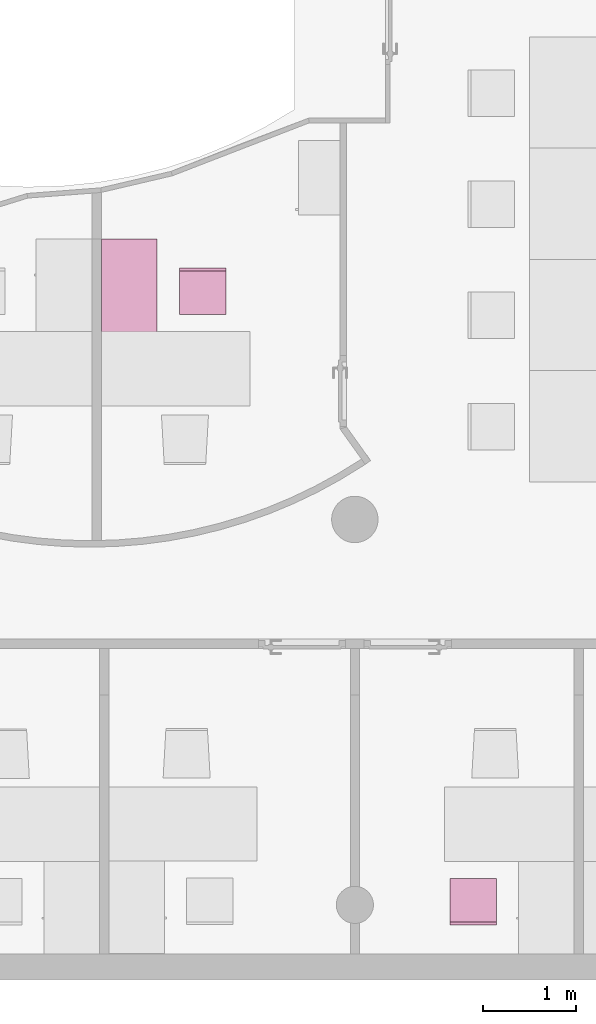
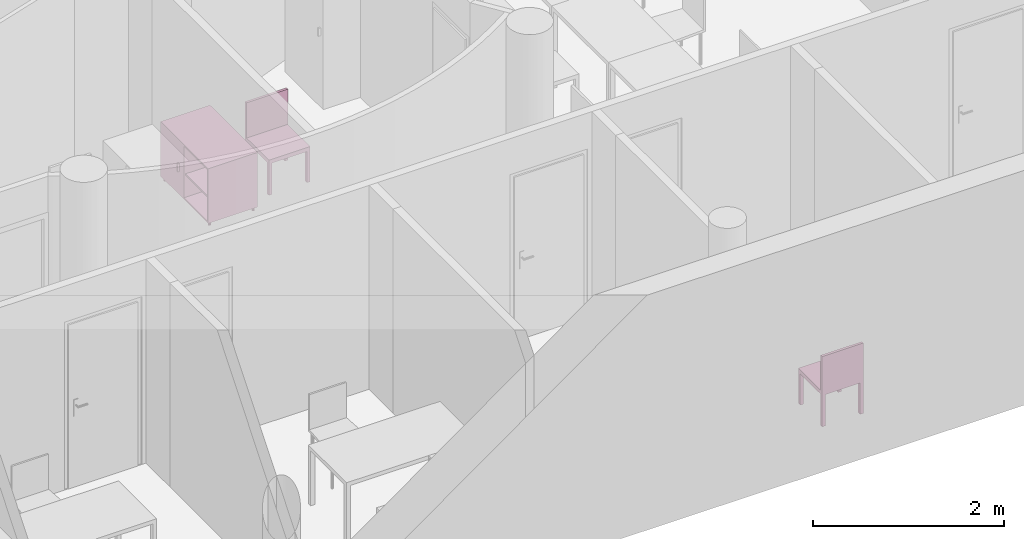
"""IFC4 building model written with IfcOpenShell, lengths in metres."""

from ifc_helpers import new_model, entity, si_unit, converted_unit, derived_unit, frame, origin, place, context, subcontext, project, spatial, faceted_brep, element, save


model = new_model("IFC4")

# Units and contexts
model_context = context("Model", 3, precision=1e-05, world=origin())
body_context = subcontext(model_context, "Body", "Model", "MODEL_VIEW")
ifc_project = project(units=[si_unit("LENGTHUNIT", "METRE"), si_unit("AREAUNIT", "SQUARE_METRE"), si_unit("VOLUMEUNIT", "CUBIC_METRE"), si_unit("MASSUNIT", "GRAM", prefix="KILO"), converted_unit("PLANEANGLEUNIT", "DEGREE", entity("IfcPlaneAngleMeasure", 0.0174532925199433), si_unit("PLANEANGLEUNIT", "RADIAN"), dimensions=[0, 0, 0, 0, 0, 0, 0]), derived_unit("THERMALTRANSMITTANCEUNIT", [(si_unit("POWERUNIT", "WATT"), 1), (si_unit("THERMODYNAMICTEMPERATUREUNIT", "KELVIN"), -1), (si_unit("LENGTHUNIT", "METRE"), -2)]), derived_unit("VOLUMETRICFLOWRATEUNIT", [(si_unit("LENGTHUNIT", "METRE"), 3), (converted_unit("TIMEUNIT", "hour", entity("IfcTimeMeasure", 3600.0), si_unit("TIMEUNIT", "SECOND"), dimensions=[0, 0, 1, 0, 0, 0, 0]), -1), (si_unit("LENGTHUNIT", "METRE"), -1)])], contexts=[model_context])

# Building, storeys
building_placement = place(None, origin())
building = spatial("IfcBuilding", under=ifc_project, at=building_placement, Name="HABITATGE PLURIFAMILIAR", CompositionType="ELEMENT")
storey_1_placement = place(building_placement, frame((0.0, 0.0, 6.25)))
storey_1 = spatial("IfcBuildingStorey", under=building, at=storey_1_placement, Name="PLANTA PRIMERA", CompositionType="ELEMENT", Elevation=6.25)
storey_2_placement = place(storey_1_placement, frame((0.0, 0.0, 3.35)))
storey_2 = spatial("IfcBuildingStorey", under=storey_1, at=storey_2_placement, Name="NOU", CompositionType="PARTIAL")

# Furniture
furniture_1_placement = place(storey_2_placement, frame((417.160806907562, 13.4340276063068, -3.34942958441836)))
element("IfcFurniture", 1, at=furniture_1_placement, inside=storey_2, Name="Cadira d'Oficina_P1", context=body_context, shape_type="Brep", body=[
    faceted_brep([(0.0, 0.5, 0.4), (0.0, 0.0, 0.4), (0.5, 0.0, 0.4), (0.5, 0.5, 0.4), (0.0, 0.0, 0.45), (0.0, 0.5, 0.45), (0.5, 0.5, 0.45), (0.5, 0.0, 0.45)], [[[0, 1, 2, 3]], [[4, 5, 6, 7]], [[1, 0, 5, 4]], [[2, 1, 4, 7]], [[3, 2, 7, 6]], [[0, 3, 6, 5]]], orient=[[False], [False], [False], [False], [False], [False]]),
    faceted_brep([(0.5, 0.04, 0.0), (0.46, 0.04, 0.0), (0.46, 0.0, 0.0), (0.5, 0.0, 0.0), (0.46, 0.04, 0.4), (0.5, 0.04, 0.4), (0.5, 0.0, 0.4), (0.46, 0.0, 0.4)], [[[0, 1, 2, 3]], [[4, 5, 6, 7]], [[1, 0, 5, 4]], [[2, 1, 4, 7]], [[3, 2, 7, 6]], [[0, 3, 6, 5]]], orient=[[False], [False], [False], [False], [False], [False]]),
    faceted_brep([(0.5, 0.5, 0.0), (0.46, 0.5, 0.0), (0.46, 0.46, 0.0), (0.5, 0.46, 0.0), (0.46, 0.5, 0.4), (0.5, 0.5, 0.4), (0.5, 0.46, 0.4), (0.46, 0.46, 0.4)], [[[0, 1, 2, 3]], [[4, 5, 6, 7]], [[1, 0, 5, 4]], [[2, 1, 4, 7]], [[3, 2, 7, 6]], [[0, 3, 6, 5]]], orient=[[False], [False], [False], [False], [False], [False]]),
    faceted_brep([(0.04, 0.04, 0.0), (0.0, 0.04, 0.0), (0.0, 0.0, 0.0), (0.04, 0.0, 0.0), (0.0, 0.04, 0.4), (0.04, 0.04, 0.4), (0.04, 0.0, 0.4), (0.0, 0.0, 0.4)], [[[0, 1, 2, 3]], [[4, 5, 6, 7]], [[1, 0, 5, 4]], [[2, 1, 4, 7]], [[3, 2, 7, 6]], [[0, 3, 6, 5]]], orient=[[False], [False], [False], [False], [False], [False]]),
    faceted_brep([(0.04, 0.5, 0.0), (0.0, 0.5, 0.0), (0.0, 0.46, 0.0), (0.04, 0.46, 0.0), (0.0, 0.5, 0.4), (0.04, 0.5, 0.4), (0.04, 0.46, 0.4), (0.0, 0.46, 0.4)], [[[0, 1, 2, 3]], [[4, 5, 6, 7]], [[1, 0, 5, 4]], [[2, 1, 4, 7]], [[3, 2, 7, 6]], [[0, 3, 6, 5]]], orient=[[False], [False], [False], [False], [False], [False]]),
    faceted_brep([(0.5, 0.03, 0.45), (0.0, 0.03, 0.45), (0.0, 0.0, 0.45), (0.5, 0.0, 0.45), (0.0, 0.03, 0.9), (0.5, 0.03, 0.9), (0.5, 0.0, 0.9), (0.0, 0.0, 0.9)], [[[0, 1, 2, 3]], [[4, 5, 6, 7]], [[1, 0, 5, 4]], [[2, 1, 4, 7]], [[3, 2, 7, 6]], [[0, 3, 6, 5]]], orient=[[False], [False], [False], [False], [False], [False]]),
])
furniture_2_placement = place(storey_2_placement, frame((413.386608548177, 19.8169688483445, -3.35)))
element("IfcFurniture", 2, at=furniture_2_placement, inside=storey_2, Name="Taula 100X60_P1", context=body_context, shape_type="Brep", body=[
    faceted_brep([(0.620000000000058, 0.0, 0.05), (0.02, 0.0, 0.05), (0.02, 0.0, 0.07), (0.620000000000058, 0.0, 0.07), (0.02, 1.00000000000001, 0.05), (0.02, 1.00000000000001, 0.07), (0.620000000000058, 1.00000000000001, 0.05), (0.620000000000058, 1.00000000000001, 0.07)], [[[0, 1, 2, 3]], [[1, 4, 5, 2]], [[4, 6, 7, 5]], [[6, 0, 3, 7]], [[0, 6, 4, 1]], [[3, 2, 5, 7]]], orient=[[False], [False], [False], [False], [False], [False]]),
    faceted_brep([(0.04, 0.0, 0.35), (0.62, 0.0, 0.35), (0.62, 1.0, 0.35), (0.04, 1.0, 0.35), (0.62, 0.0, 0.37), (0.04, 0.0, 0.37), (0.04, 1.0, 0.37), (0.62, 1.0, 0.37)], [[[0, 1, 2, 3]], [[4, 5, 6, 7]], [[1, 0, 5, 4]], [[2, 1, 4, 7]], [[3, 2, 7, 6]], [[0, 3, 6, 5]]], orient=[[False], [False], [False], [False], [False], [False]]),
    faceted_brep([(0.04, 0.510000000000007, 0.75), (0.04, 0.510000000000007, 0.05), (0.02, 0.510000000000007, 0.05), (0.02, 0.510000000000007, 0.75), (0.04, 1.00000000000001, 0.05), (0.02, 1.00000000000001, 0.05), (0.04, 1.00000000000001, 0.75), (0.02, 1.00000000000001, 0.75)], [[[0, 1, 2, 3]], [[1, 4, 5, 2]], [[4, 6, 7, 5]], [[6, 0, 3, 7]], [[0, 6, 4, 1]], [[3, 2, 5, 7]]], orient=[[False], [False], [False], [False], [False], [False]]),
    faceted_brep([(0.62, 0.0200000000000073, 0.75), (0.620000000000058, 0.0200000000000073, 0.0499999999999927), (0.620000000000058, 0.0, 0.0499999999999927), (0.62, 0.0, 0.75), (0.02, 0.0200000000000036, 0.05), (0.02, 0.0, 0.05), (0.02, 0.0200000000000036, 0.75), (0.02, 0.0, 0.75)], [[[0, 1, 2, 3]], [[1, 4, 5, 2]], [[4, 6, 7, 5]], [[6, 0, 3, 7]], [[0, 6, 4, 1]], [[3, 2, 5, 7]]], orient=[[False], [False], [False], [False], [False], [False]]),
    faceted_brep([(0.62, 0.530000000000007, 0.75), (0.620000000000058, 0.530000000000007, 0.0499999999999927), (0.620000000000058, 0.510000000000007, 0.0499999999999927), (0.62, 0.510000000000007, 0.75), (0.02, 0.530000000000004, 0.05), (0.02, 0.510000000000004, 0.05), (0.02, 0.530000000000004, 0.75), (0.02, 0.510000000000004, 0.75)], [[[0, 1, 2, 3]], [[1, 4, 5, 2]], [[4, 6, 7, 5]], [[6, 0, 3, 7]], [[0, 6, 4, 1]], [[3, 2, 5, 7]]], orient=[[False], [False], [False], [False], [False], [False]]),
    faceted_brep([(0.620000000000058, 0.530000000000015, 0.75000000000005), (0.620000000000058, 0.530000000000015, 0.0499999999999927), (0.620000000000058, 0.510000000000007, 0.0499999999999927), (0.620000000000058, 0.510000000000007, 0.75000000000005), (0.0400000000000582, 0.530000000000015, 0.0499999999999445), (0.0400000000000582, 0.510000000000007, 0.0499999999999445), (0.04, 0.530000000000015, 0.750000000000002), (0.04, 0.510000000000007, 0.750000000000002)], [[[0, 1, 2, 3]], [[1, 4, 5, 2]], [[4, 6, 7, 5]], [[6, 0, 3, 7]], [[0, 6, 4, 1]], [[3, 2, 5, 7]]], orient=[[False], [False], [False], [False], [False], [False]]),
    faceted_brep([(0.62, 1.00000000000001, 0.75), (0.620000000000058, 1.00000000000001, 0.0499999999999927), (0.620000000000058, 0.980000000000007, 0.0499999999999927), (0.62, 0.980000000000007, 0.75), (0.02, 1.0, 0.05), (0.02, 0.980000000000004, 0.05), (0.02, 1.0, 0.75), (0.02, 0.980000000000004, 0.75)], [[[0, 1, 2, 3]], [[1, 4, 5, 2]], [[4, 6, 7, 5]], [[6, 0, 3, 7]], [[0, 6, 4, 1]], [[3, 2, 5, 7]]], orient=[[False], [False], [False], [False], [False], [False]]),
    faceted_brep([(0.620000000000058, 0.0, 0.73), (0.02, 0.0, 0.73), (0.02, 0.0, 0.75), (0.620000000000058, 0.0, 0.75), (0.02, 1.00000000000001, 0.73), (0.02, 1.00000000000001, 0.75), (0.620000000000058, 1.00000000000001, 0.73), (0.620000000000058, 1.00000000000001, 0.75)], [[[0, 1, 2, 3]], [[1, 4, 5, 2]], [[4, 6, 7, 5]], [[6, 0, 3, 7]], [[0, 6, 4, 1]], [[3, 2, 5, 7]]], orient=[[False], [False], [False], [False], [False], [False]]),
    faceted_brep([(0.62, 0.0200000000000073, 0.75), (0.62, 0.0200000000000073, 0.05), (0.6, 0.0200000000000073, 0.05), (0.6, 0.0200000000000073, 0.75), (0.62, 1.00000000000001, 0.05), (0.6, 1.00000000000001, 0.05), (0.62, 1.00000000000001, 0.75), (0.6, 1.00000000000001, 0.75)], [[[0, 1, 2, 3]], [[1, 4, 5, 2]], [[4, 6, 7, 5]], [[6, 0, 3, 7]], [[0, 6, 4, 1]], [[3, 2, 5, 7]]], orient=[[False], [False], [False], [False], [False], [False]]),
    faceted_brep([(0.02, 0.625579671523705, 0.35), (0.0, 0.625579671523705, 0.35), (0.0, 0.605579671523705, 0.35), (0.02, 0.605579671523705, 0.35), (0.02, 0.605579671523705, 0.45), (0.0, 0.605579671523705, 0.45), (0.0, 0.625579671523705, 0.45), (0.02, 0.625579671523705, 0.45)], [[[0, 1, 2, 3]], [[4, 5, 6, 7]], [[3, 4, 7, 0]], [[2, 5, 4, 3]], [[1, 6, 5, 2]], [[0, 7, 6, 1]]], orient=[[False], [False], [False], [False], [False], [False]]),
    faceted_brep([(0.583821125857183, 0.0499366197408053, 0.0), (0.581227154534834, 0.0497096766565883, 0.0), (0.578711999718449, 0.0490357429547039, 0.0), (0.5763520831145, 0.047935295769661, 0.0), (0.574219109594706, 0.0464417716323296, 0.0), (0.57237788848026, 0.0446005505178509, 0.0), (0.570884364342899, 0.0424675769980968, 0.0), (0.569783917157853, 0.0401076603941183, 0.0), (0.569109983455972, 0.0375925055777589, 0.0), (0.568883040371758, 0.0349985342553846, 0.0), (0.569109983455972, 0.0324045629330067, 0.0), (0.569783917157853, 0.0298894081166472, 0.0), (0.570884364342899, 0.0275294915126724, 0.0), (0.57237788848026, 0.0253965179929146, 0.0), (0.574219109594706, 0.0235552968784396, 0.0), (0.5763520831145, 0.0220617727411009, 0.0), (0.578711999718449, 0.0209613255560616, 0.0), (0.581227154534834, 0.0202873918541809, 0.0), (0.583821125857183, 0.0200604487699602, 0.0), (0.586415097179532, 0.0202873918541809, 0.0), (0.588930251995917, 0.0209613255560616, 0.0), (0.591290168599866, 0.0220617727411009, 0.0), (0.59342314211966, 0.0235552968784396, 0.0), (0.595264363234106, 0.0253965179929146, 0.0), (0.596757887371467, 0.0275294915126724, 0.0), (0.597858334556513, 0.0298894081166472, 0.0), (0.598532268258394, 0.0324045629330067, 0.0), (0.598759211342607, 0.0349985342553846, 0.0), (0.598532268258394, 0.0375925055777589, 0.0), (0.597858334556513, 0.0401076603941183, 0.0), (0.596757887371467, 0.0424675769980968, 0.0), (0.595264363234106, 0.0446005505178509, 0.0), (0.59342314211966, 0.0464417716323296, 0.0), (0.591290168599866, 0.047935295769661, 0.0), (0.588930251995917, 0.0490357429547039, 0.0), (0.586415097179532, 0.0497096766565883, 0.0), (0.583821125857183, 0.0499366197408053, 0.05), (0.586415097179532, 0.0497096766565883, 0.05), (0.588930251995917, 0.0490357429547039, 0.05), (0.591290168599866, 0.047935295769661, 0.05), (0.59342314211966, 0.0464417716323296, 0.05), (0.595264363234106, 0.0446005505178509, 0.05), (0.596757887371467, 0.0424675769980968, 0.05), (0.597858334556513, 0.0401076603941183, 0.05), (0.598532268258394, 0.0375925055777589, 0.05), (0.598759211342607, 0.0349985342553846, 0.05), (0.598532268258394, 0.0324045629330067, 0.05), (0.597858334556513, 0.0298894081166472, 0.05), (0.596757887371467, 0.0275294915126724, 0.05), (0.595264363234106, 0.0253965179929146, 0.05), (0.59342314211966, 0.0235552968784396, 0.05), (0.591290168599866, 0.0220617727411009, 0.05), (0.588930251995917, 0.0209613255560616, 0.05), (0.586415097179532, 0.0202873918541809, 0.05), (0.583821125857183, 0.0200604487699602, 0.05), (0.581227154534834, 0.0202873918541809, 0.05), (0.578711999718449, 0.0209613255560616, 0.05), (0.5763520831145, 0.0220617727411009, 0.05), (0.574219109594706, 0.0235552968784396, 0.05), (0.57237788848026, 0.0253965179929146, 0.05), (0.570884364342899, 0.0275294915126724, 0.05), (0.569783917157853, 0.0298894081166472, 0.05), (0.569109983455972, 0.0324045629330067, 0.05), (0.568883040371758, 0.0349985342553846, 0.05), (0.569109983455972, 0.0375925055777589, 0.05), (0.569783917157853, 0.0401076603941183, 0.05), (0.570884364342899, 0.0424675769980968, 0.05), (0.57237788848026, 0.0446005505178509, 0.05), (0.574219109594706, 0.0464417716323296, 0.05), (0.5763520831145, 0.047935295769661, 0.05), (0.578711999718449, 0.0490357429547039, 0.05), (0.581227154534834, 0.0497096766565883, 0.05)], [[[0, 1, 2, 3, 4, 5, 6, 7, 8, 9, 10, 11, 12, 13, 14, 15, 16, 17, 18, 19, 20, 21, 22, 23, 24, 25, 26, 27, 28, 29, 30, 31, 32, 33, 34, 35]], [[36, 37, 38, 39, 40, 41, 42, 43, 44, 45, 46, 47, 48, 49, 50, 51, 52, 53, 54, 55, 56, 57, 58, 59, 60, 61, 62, 63, 64, 65, 66, 67, 68, 69, 70, 71]], [[1, 0, 36, 71]], [[2, 1, 71, 70]], [[3, 2, 70, 69]], [[4, 3, 69, 68]], [[5, 4, 68, 67]], [[6, 5, 67, 66]], [[7, 6, 66, 65]], [[8, 7, 65, 64]], [[9, 8, 64, 63]], [[10, 9, 63, 62]], [[11, 10, 62, 61]], [[12, 11, 61, 60]], [[13, 12, 60, 59]], [[14, 13, 59, 58]], [[15, 14, 58, 57]], [[16, 15, 57, 56]], [[17, 16, 56, 55]], [[18, 17, 55, 54]], [[19, 18, 54, 53]], [[20, 19, 53, 52]], [[21, 20, 52, 51]], [[22, 21, 51, 50]], [[23, 22, 50, 49]], [[24, 23, 49, 48]], [[25, 24, 48, 47]], [[26, 25, 47, 46]], [[27, 26, 46, 45]], [[28, 27, 45, 44]], [[29, 28, 44, 43]], [[30, 29, 43, 42]], [[31, 30, 42, 41]], [[32, 31, 41, 40]], [[33, 32, 40, 39]], [[34, 33, 39, 38]], [[35, 34, 38, 37]], [[0, 35, 37, 36]]], orient=[[False], [False], [False], [False], [False], [False], [False], [False], [False], [False], [False], [False], [False], [False], [False], [False], [False], [False], [False], [False], [False], [False], [False], [False], [False], [False], [False], [False], [False], [False], [False], [False], [False], [False], [False], [False], [False], [False]]),
    faceted_brep([(0.0538211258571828, 0.0499366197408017, 0.0), (0.051227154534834, 0.0497096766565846, 0.0), (0.0487119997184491, 0.0490357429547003, 0.0), (0.0463520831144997, 0.047935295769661, 0.0), (0.0442191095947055, 0.046441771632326, 0.0), (0.0423778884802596, 0.0446005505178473, 0.0), (0.0408843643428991, 0.0424675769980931, 0.0), (0.0397839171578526, 0.0401076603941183, 0.0), (0.0391099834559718, 0.0375925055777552, 0.0), (0.0388830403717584, 0.0349985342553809, 0.0), (0.0391099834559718, 0.0324045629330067, 0.0), (0.0397839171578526, 0.0298894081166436, 0.0), (0.0408843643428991, 0.0275294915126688, 0.0), (0.0423778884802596, 0.0253965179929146, 0.0), (0.0442191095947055, 0.0235552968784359, 0.0), (0.0463520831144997, 0.0220617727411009, 0.0), (0.0487119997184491, 0.0209613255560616, 0.0), (0.051227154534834, 0.0202873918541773, 0.0), (0.0538211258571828, 0.0200604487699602, 0.0), (0.0564150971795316, 0.0202873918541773, 0.0), (0.0589302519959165, 0.0209613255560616, 0.0), (0.0612901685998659, 0.0220617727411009, 0.0), (0.06342314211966, 0.0235552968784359, 0.0), (0.065264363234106, 0.0253965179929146, 0.0), (0.0667578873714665, 0.0275294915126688, 0.0), (0.067858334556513, 0.0298894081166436, 0.0), (0.0685322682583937, 0.0324045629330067, 0.0), (0.0687592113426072, 0.0349985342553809, 0.0), (0.0685322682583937, 0.0375925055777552, 0.0), (0.067858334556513, 0.0401076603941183, 0.0), (0.0667578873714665, 0.0424675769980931, 0.0), (0.065264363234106, 0.0446005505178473, 0.0), (0.06342314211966, 0.046441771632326, 0.0), (0.0612901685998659, 0.047935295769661, 0.0), (0.0589302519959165, 0.0490357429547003, 0.0), (0.0564150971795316, 0.0497096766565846, 0.0), (0.0538211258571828, 0.0499366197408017, 0.05), (0.0564150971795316, 0.0497096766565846, 0.05), (0.0589302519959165, 0.0490357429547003, 0.05), (0.0612901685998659, 0.047935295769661, 0.05), (0.06342314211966, 0.046441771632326, 0.05), (0.065264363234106, 0.0446005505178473, 0.05), (0.0667578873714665, 0.0424675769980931, 0.05), (0.067858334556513, 0.0401076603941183, 0.05), (0.0685322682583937, 0.0375925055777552, 0.05), (0.0687592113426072, 0.0349985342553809, 0.05), (0.0685322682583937, 0.0324045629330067, 0.05), (0.067858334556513, 0.0298894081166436, 0.05), (0.0667578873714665, 0.0275294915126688, 0.05), (0.065264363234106, 0.0253965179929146, 0.05), (0.06342314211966, 0.0235552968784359, 0.05), (0.0612901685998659, 0.0220617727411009, 0.05), (0.0589302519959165, 0.0209613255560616, 0.05), (0.0564150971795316, 0.0202873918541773, 0.05), (0.0538211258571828, 0.0200604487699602, 0.05), (0.051227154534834, 0.0202873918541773, 0.05), (0.0487119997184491, 0.0209613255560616, 0.05), (0.0463520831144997, 0.0220617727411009, 0.05), (0.0442191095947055, 0.0235552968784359, 0.05), (0.0423778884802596, 0.0253965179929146, 0.05), (0.0408843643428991, 0.0275294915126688, 0.05), (0.0397839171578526, 0.0298894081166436, 0.05), (0.0391099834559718, 0.0324045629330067, 0.05), (0.0388830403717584, 0.0349985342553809, 0.05), (0.0391099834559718, 0.0375925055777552, 0.05), (0.0397839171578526, 0.0401076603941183, 0.05), (0.0408843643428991, 0.0424675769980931, 0.05), (0.0423778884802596, 0.0446005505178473, 0.05), (0.0442191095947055, 0.046441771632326, 0.05), (0.0463520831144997, 0.047935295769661, 0.05), (0.0487119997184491, 0.0490357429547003, 0.05), (0.051227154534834, 0.0497096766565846, 0.05)], [[[0, 1, 2, 3, 4, 5, 6, 7, 8, 9, 10, 11, 12, 13, 14, 15, 16, 17, 18, 19, 20, 21, 22, 23, 24, 25, 26, 27, 28, 29, 30, 31, 32, 33, 34, 35]], [[36, 37, 38, 39, 40, 41, 42, 43, 44, 45, 46, 47, 48, 49, 50, 51, 52, 53, 54, 55, 56, 57, 58, 59, 60, 61, 62, 63, 64, 65, 66, 67, 68, 69, 70, 71]], [[1, 0, 36, 71]], [[2, 1, 71, 70]], [[3, 2, 70, 69]], [[4, 3, 69, 68]], [[5, 4, 68, 67]], [[6, 5, 67, 66]], [[7, 6, 66, 65]], [[8, 7, 65, 64]], [[9, 8, 64, 63]], [[10, 9, 63, 62]], [[11, 10, 62, 61]], [[12, 11, 61, 60]], [[13, 12, 60, 59]], [[14, 13, 59, 58]], [[15, 14, 58, 57]], [[16, 15, 57, 56]], [[17, 16, 56, 55]], [[18, 17, 55, 54]], [[19, 18, 54, 53]], [[20, 19, 53, 52]], [[21, 20, 52, 51]], [[22, 21, 51, 50]], [[23, 22, 50, 49]], [[24, 23, 49, 48]], [[25, 24, 48, 47]], [[26, 25, 47, 46]], [[27, 26, 46, 45]], [[28, 27, 45, 44]], [[29, 28, 44, 43]], [[30, 29, 43, 42]], [[31, 30, 42, 41]], [[32, 31, 41, 40]], [[33, 32, 40, 39]], [[34, 33, 39, 38]], [[35, 34, 38, 37]], [[0, 35, 37, 36]]], orient=[[False], [False], [False], [False], [False], [False], [False], [False], [False], [False], [False], [False], [False], [False], [False], [False], [False], [False], [False], [False], [False], [False], [False], [False], [False], [False], [False], [False], [False], [False], [False], [False], [False], [False], [False], [False], [False], [False]]),
    faceted_brep([(0.0550000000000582, 0.97998298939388, 0.0), (0.0524060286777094, 0.979756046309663, 0.0), (0.0498908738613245, 0.979082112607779, 0.0), (0.0475309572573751, 0.97798166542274, 0.0), (0.0453979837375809, 0.976488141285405, 0.0), (0.043556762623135, 0.974646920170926, 0.0), (0.0420632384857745, 0.972513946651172, 0.0), (0.040962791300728, 0.970154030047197, 0.0), (0.0402888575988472, 0.967638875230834, 0.0), (0.0400619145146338, 0.96504490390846, 0.0), (0.0402888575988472, 0.962450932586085, 0.0), (0.040962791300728, 0.959935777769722, 0.0), (0.0420632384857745, 0.957575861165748, 0.0), (0.043556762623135, 0.955442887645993, 0.0), (0.0453979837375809, 0.953601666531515, 0.0), (0.0475309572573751, 0.95210814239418, 0.0), (0.0498908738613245, 0.95100769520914, 0.0), (0.0524060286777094, 0.950333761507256, 0.0), (0.0550000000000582, 0.950106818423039, 0.0), (0.057593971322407, 0.950333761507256, 0.0), (0.0601091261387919, 0.95100769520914, 0.0), (0.0624690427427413, 0.95210814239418, 0.0), (0.0646020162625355, 0.953601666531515, 0.0), (0.0664432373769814, 0.955442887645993, 0.0), (0.0679367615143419, 0.957575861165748, 0.0), (0.0690372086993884, 0.959935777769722, 0.0), (0.0697111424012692, 0.962450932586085, 0.0), (0.0699380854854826, 0.96504490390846, 0.0), (0.0697111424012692, 0.967638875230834, 0.0), (0.0690372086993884, 0.970154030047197, 0.0), (0.0679367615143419, 0.972513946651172, 0.0), (0.0664432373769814, 0.974646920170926, 0.0), (0.0646020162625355, 0.976488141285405, 0.0), (0.0624690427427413, 0.97798166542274, 0.0), (0.0601091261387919, 0.979082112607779, 0.0), (0.057593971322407, 0.979756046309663, 0.0), (0.0550000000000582, 0.97998298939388, 0.05), (0.057593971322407, 0.979756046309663, 0.05), (0.0601091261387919, 0.979082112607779, 0.05), (0.0624690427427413, 0.97798166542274, 0.05), (0.0646020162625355, 0.976488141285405, 0.05), (0.0664432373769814, 0.974646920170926, 0.05), (0.0679367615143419, 0.972513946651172, 0.05), (0.0690372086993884, 0.970154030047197, 0.05), (0.0697111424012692, 0.967638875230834, 0.05), (0.0699380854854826, 0.96504490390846, 0.05), (0.0697111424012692, 0.962450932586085, 0.05), (0.0690372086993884, 0.959935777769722, 0.05), (0.0679367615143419, 0.957575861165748, 0.05), (0.0664432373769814, 0.955442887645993, 0.05), (0.0646020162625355, 0.953601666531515, 0.05), (0.0624690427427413, 0.95210814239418, 0.05), (0.0601091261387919, 0.95100769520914, 0.05), (0.057593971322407, 0.950333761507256, 0.05), (0.0550000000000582, 0.950106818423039, 0.05), (0.0524060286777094, 0.950333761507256, 0.05), (0.0498908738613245, 0.95100769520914, 0.05), (0.0475309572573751, 0.95210814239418, 0.05), (0.0453979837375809, 0.953601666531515, 0.05), (0.043556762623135, 0.955442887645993, 0.05), (0.0420632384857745, 0.957575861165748, 0.05), (0.040962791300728, 0.959935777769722, 0.05), (0.0402888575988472, 0.962450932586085, 0.05), (0.0400619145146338, 0.96504490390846, 0.05), (0.0402888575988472, 0.967638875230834, 0.05), (0.040962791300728, 0.970154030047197, 0.05), (0.0420632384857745, 0.972513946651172, 0.05), (0.043556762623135, 0.974646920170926, 0.05), (0.0453979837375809, 0.976488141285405, 0.05), (0.0475309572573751, 0.97798166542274, 0.05), (0.0498908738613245, 0.979082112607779, 0.05), (0.0524060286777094, 0.979756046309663, 0.05)], [[[0, 1, 2, 3, 4, 5, 6, 7, 8, 9, 10, 11, 12, 13, 14, 15, 16, 17, 18, 19, 20, 21, 22, 23, 24, 25, 26, 27, 28, 29, 30, 31, 32, 33, 34, 35]], [[36, 37, 38, 39, 40, 41, 42, 43, 44, 45, 46, 47, 48, 49, 50, 51, 52, 53, 54, 55, 56, 57, 58, 59, 60, 61, 62, 63, 64, 65, 66, 67, 68, 69, 70, 71]], [[1, 0, 36, 71]], [[2, 1, 71, 70]], [[3, 2, 70, 69]], [[4, 3, 69, 68]], [[5, 4, 68, 67]], [[6, 5, 67, 66]], [[7, 6, 66, 65]], [[8, 7, 65, 64]], [[9, 8, 64, 63]], [[10, 9, 63, 62]], [[11, 10, 62, 61]], [[12, 11, 61, 60]], [[13, 12, 60, 59]], [[14, 13, 59, 58]], [[15, 14, 58, 57]], [[16, 15, 57, 56]], [[17, 16, 56, 55]], [[18, 17, 55, 54]], [[19, 18, 54, 53]], [[20, 19, 53, 52]], [[21, 20, 52, 51]], [[22, 21, 51, 50]], [[23, 22, 50, 49]], [[24, 23, 49, 48]], [[25, 24, 48, 47]], [[26, 25, 47, 46]], [[27, 26, 46, 45]], [[28, 27, 45, 44]], [[29, 28, 44, 43]], [[30, 29, 43, 42]], [[31, 30, 42, 41]], [[32, 31, 41, 40]], [[33, 32, 40, 39]], [[34, 33, 39, 38]], [[35, 34, 38, 37]], [[0, 35, 37, 36]]], orient=[[False], [False], [False], [False], [False], [False], [False], [False], [False], [False], [False], [False], [False], [False], [False], [False], [False], [False], [False], [False], [False], [False], [False], [False], [False], [False], [False], [False], [False], [False], [False], [False], [False], [False], [False], [False], [False], [False]]),
    faceted_brep([(0.585033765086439, 0.979647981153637, 0.0), (0.58243979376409, 0.97942103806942, 0.0), (0.579924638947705, 0.978747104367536, 0.0), (0.577564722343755, 0.977646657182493, 0.0), (0.575431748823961, 0.976153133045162, 0.0), (0.573590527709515, 0.974311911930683, 0.0), (0.572097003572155, 0.972178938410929, 0.0), (0.570996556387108, 0.96981902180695, 0.0), (0.570322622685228, 0.967303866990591, 0.0), (0.570095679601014, 0.964709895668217, 0.0), (0.570322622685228, 0.962115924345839, 0.0), (0.570996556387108, 0.959600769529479, 0.0), (0.572097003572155, 0.957240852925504, 0.0), (0.573590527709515, 0.955107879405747, 0.0), (0.575431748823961, 0.953266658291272, 0.0), (0.577564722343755, 0.951773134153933, 0.0), (0.579924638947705, 0.950672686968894, 0.0), (0.58243979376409, 0.949998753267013, 0.0), (0.585033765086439, 0.949771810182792, 0.0), (0.587627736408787, 0.949998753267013, 0.0), (0.590142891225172, 0.950672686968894, 0.0), (0.592502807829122, 0.951773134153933, 0.0), (0.594635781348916, 0.953266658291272, 0.0), (0.596477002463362, 0.955107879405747, 0.0), (0.597970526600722, 0.957240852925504, 0.0), (0.599070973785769, 0.959600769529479, 0.0), (0.59974490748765, 0.962115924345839, 0.0), (0.599971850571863, 0.964709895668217, 0.0), (0.59974490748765, 0.967303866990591, 0.0), (0.599070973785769, 0.96981902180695, 0.0), (0.597970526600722, 0.972178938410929, 0.0), (0.596477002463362, 0.974311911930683, 0.0), (0.594635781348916, 0.976153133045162, 0.0), (0.592502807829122, 0.977646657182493, 0.0), (0.590142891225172, 0.978747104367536, 0.0), (0.587627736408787, 0.97942103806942, 0.0), (0.585033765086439, 0.979647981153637, 0.05), (0.587627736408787, 0.97942103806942, 0.05), (0.590142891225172, 0.978747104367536, 0.05), (0.592502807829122, 0.977646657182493, 0.05), (0.594635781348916, 0.976153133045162, 0.05), (0.596477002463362, 0.974311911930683, 0.05), (0.597970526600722, 0.972178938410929, 0.05), (0.599070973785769, 0.96981902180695, 0.05), (0.59974490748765, 0.967303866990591, 0.05), (0.599971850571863, 0.964709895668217, 0.05), (0.59974490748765, 0.962115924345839, 0.05), (0.599070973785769, 0.959600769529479, 0.05), (0.597970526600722, 0.957240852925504, 0.05), (0.596477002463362, 0.955107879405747, 0.05), (0.594635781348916, 0.953266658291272, 0.05), (0.592502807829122, 0.951773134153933, 0.05), (0.590142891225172, 0.950672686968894, 0.05), (0.587627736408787, 0.949998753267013, 0.05), (0.585033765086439, 0.949771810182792, 0.05), (0.58243979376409, 0.949998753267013, 0.05), (0.579924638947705, 0.950672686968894, 0.05), (0.577564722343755, 0.951773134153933, 0.05), (0.575431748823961, 0.953266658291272, 0.05), (0.573590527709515, 0.955107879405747, 0.05), (0.572097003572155, 0.957240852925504, 0.05), (0.570996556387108, 0.959600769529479, 0.05), (0.570322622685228, 0.962115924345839, 0.05), (0.570095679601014, 0.964709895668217, 0.05), (0.570322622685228, 0.967303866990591, 0.05), (0.570996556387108, 0.96981902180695, 0.05), (0.572097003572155, 0.972178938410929, 0.05), (0.573590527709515, 0.974311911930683, 0.05), (0.575431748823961, 0.976153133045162, 0.05), (0.577564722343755, 0.977646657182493, 0.05), (0.579924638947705, 0.978747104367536, 0.05), (0.58243979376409, 0.97942103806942, 0.05)], [[[0, 1, 2, 3, 4, 5, 6, 7, 8, 9, 10, 11, 12, 13, 14, 15, 16, 17, 18, 19, 20, 21, 22, 23, 24, 25, 26, 27, 28, 29, 30, 31, 32, 33, 34, 35]], [[36, 37, 38, 39, 40, 41, 42, 43, 44, 45, 46, 47, 48, 49, 50, 51, 52, 53, 54, 55, 56, 57, 58, 59, 60, 61, 62, 63, 64, 65, 66, 67, 68, 69, 70, 71]], [[1, 0, 36, 71]], [[2, 1, 71, 70]], [[3, 2, 70, 69]], [[4, 3, 69, 68]], [[5, 4, 68, 67]], [[6, 5, 67, 66]], [[7, 6, 66, 65]], [[8, 7, 65, 64]], [[9, 8, 64, 63]], [[10, 9, 63, 62]], [[11, 10, 62, 61]], [[12, 11, 61, 60]], [[13, 12, 60, 59]], [[14, 13, 59, 58]], [[15, 14, 58, 57]], [[16, 15, 57, 56]], [[17, 16, 56, 55]], [[18, 17, 55, 54]], [[19, 18, 54, 53]], [[20, 19, 53, 52]], [[21, 20, 52, 51]], [[22, 21, 51, 50]], [[23, 22, 50, 49]], [[24, 23, 49, 48]], [[25, 24, 48, 47]], [[26, 25, 47, 46]], [[27, 26, 46, 45]], [[28, 27, 45, 44]], [[29, 28, 44, 43]], [[30, 29, 43, 42]], [[31, 30, 42, 41]], [[32, 31, 41, 40]], [[33, 32, 40, 39]], [[34, 33, 39, 38]], [[35, 34, 38, 37]], [[0, 35, 37, 36]]], orient=[[False], [False], [False], [False], [False], [False], [False], [False], [False], [False], [False], [False], [False], [False], [False], [False], [False], [False], [False], [False], [False], [False], [False], [False], [False], [False], [False], [False], [False], [False], [False], [False], [False], [False], [False], [False], [False], [False]]),
])
furniture_3_placement = place(storey_2_placement, frame((414.250151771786, 20.0044831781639, -3.34942958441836)))
element("IfcFurniture", 3, at=furniture_3_placement, inside=storey_2, Name="Cadira d'Oficina_P1", context=body_context, shape_type="Brep", body=[
    faceted_brep([(0.0, 0.0, 0.4), (0.5, 0.0, 0.4), (0.5, 0.5, 0.4), (0.0, 0.5, 0.4), (0.0, 0.5, 0.45), (0.5, 0.5, 0.45), (0.5, 0.0, 0.45), (0.0, 0.0, 0.45)], [[[0, 1, 2, 3]], [[4, 5, 6, 7]], [[3, 4, 7, 0]], [[2, 5, 4, 3]], [[1, 6, 5, 2]], [[0, 7, 6, 1]]], orient=[[False], [False], [False], [False], [False], [False]]),
    faceted_brep([(0.5, 0.46, 0.0), (0.5, 0.5, 0.0), (0.46, 0.5, 0.0), (0.46, 0.46, 0.0), (0.46, 0.46, 0.4), (0.46, 0.5, 0.4), (0.5, 0.5, 0.4), (0.5, 0.46, 0.4)], [[[0, 1, 2, 3]], [[4, 5, 6, 7]], [[3, 4, 7, 0]], [[2, 5, 4, 3]], [[1, 6, 5, 2]], [[0, 7, 6, 1]]], orient=[[False], [False], [False], [False], [False], [False]]),
    faceted_brep([(0.5, 0.0, 0.0), (0.5, 0.04, 0.0), (0.46, 0.04, 0.0), (0.46, 0.0, 0.0), (0.46, 0.0, 0.4), (0.46, 0.04, 0.4), (0.5, 0.04, 0.4), (0.5, 0.0, 0.4)], [[[0, 1, 2, 3]], [[4, 5, 6, 7]], [[3, 4, 7, 0]], [[2, 5, 4, 3]], [[1, 6, 5, 2]], [[0, 7, 6, 1]]], orient=[[False], [False], [False], [False], [False], [False]]),
    faceted_brep([(0.04, 0.46, 0.0), (0.04, 0.5, 0.0), (0.0, 0.5, 0.0), (0.0, 0.46, 0.0), (0.0, 0.46, 0.4), (0.0, 0.5, 0.4), (0.04, 0.5, 0.4), (0.04, 0.46, 0.4)], [[[0, 1, 2, 3]], [[4, 5, 6, 7]], [[3, 4, 7, 0]], [[2, 5, 4, 3]], [[1, 6, 5, 2]], [[0, 7, 6, 1]]], orient=[[False], [False], [False], [False], [False], [False]]),
    faceted_brep([(0.04, 0.0, 0.0), (0.04, 0.04, 0.0), (0.0, 0.04, 0.0), (0.0, 0.0, 0.0), (0.0, 0.0, 0.4), (0.0, 0.04, 0.4), (0.04, 0.04, 0.4), (0.04, 0.0, 0.4)], [[[0, 1, 2, 3]], [[4, 5, 6, 7]], [[3, 4, 7, 0]], [[2, 5, 4, 3]], [[1, 6, 5, 2]], [[0, 7, 6, 1]]], orient=[[False], [False], [False], [False], [False], [False]]),
    faceted_brep([(0.5, 0.47, 0.45), (0.5, 0.5, 0.45), (0.0, 0.5, 0.45), (0.0, 0.47, 0.45), (0.0, 0.47, 0.9), (0.0, 0.5, 0.9), (0.5, 0.5, 0.9), (0.5, 0.47, 0.9)], [[[0, 1, 2, 3]], [[4, 5, 6, 7]], [[3, 4, 7, 0]], [[2, 5, 4, 3]], [[1, 6, 5, 2]], [[0, 7, 6, 1]]], orient=[[False], [False], [False], [False], [False], [False]]),
])

save(model, "model.ifc")
